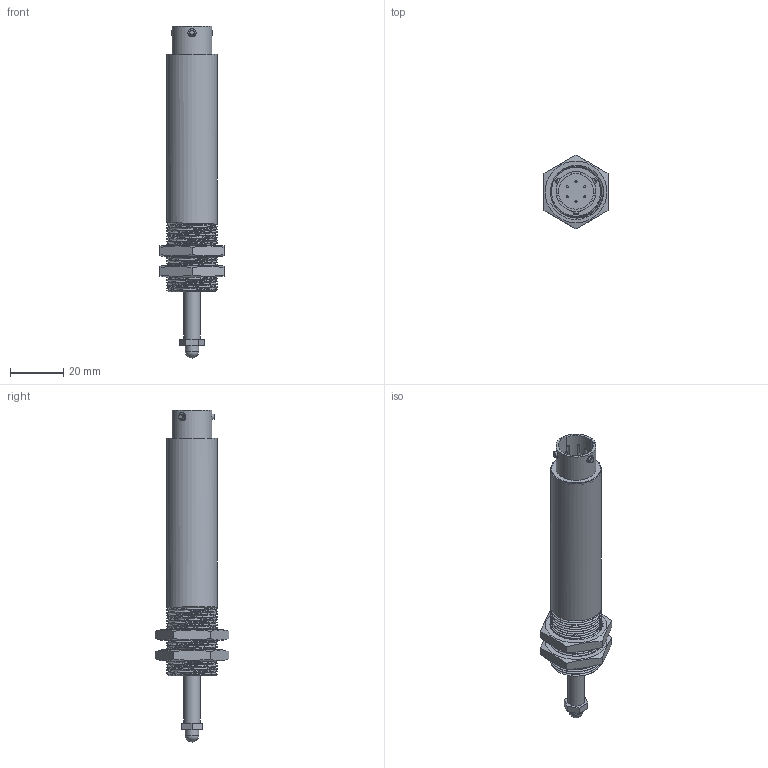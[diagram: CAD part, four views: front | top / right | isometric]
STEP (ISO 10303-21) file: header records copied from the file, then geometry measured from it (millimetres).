
FILE_DESCRIPTION(/* description */ (''),/* implementation_level */ '2;1');
FILE_NAME(/* name */ 'ILPS-18S-013-A-02-YY-Z.stp',/* time_stamp */ '2026-01-27T15:11:40-05:00',/* author */ ('wingm'),/* organization */ (''),/* preprocessor_version */ 'ST-DEVELOPER v20.1',/* originating_system */ 'Autodesk Inventor 2026',/* authorisation */ '');
FILE_SCHEMA (('AUTOMOTIVE_DESIGN { 1 0 10303 214 3 1 1 }'));
Length unit declared in the file: inch
Products named in the file (8): Assembly1; Body; End Cap; Shaft; Lining; PT02-10; Hex Nut; #9540
Assembly tree (8 placements, depth 2):
  Assembly1
    Body
    End Cap
    Shaft
    Lining
    PT02-10
    Hex Nut  x2
    #9540
Bounding box: 24 x 27.71 x 124.46 mm (x, y, z)
Volume: 8250 mm3; surface area: 17592.1 mm2
Topology: 15 solids, 15 shells, 168 faces, 364 edges, 242 vertices
Faces by surface type: plane 75, cylinder 69, cone 10, bspline 10, torus 3, sphere 1
Full cylindrical faces by diameter (mm): 0.762 x6, 1.905 x1, 2.032 x3, 2.845 x3, 3.048 x3, 5.08 x1, 6.35 x2, 6.858 x2, 13.208 x1, 14.986 x1, 17.069 x3, 18.415 x2, 19.05 x28
Entity records: 9522 total; most frequent: CARTESIAN_POINT 6001, ORIENTED_EDGE 632, DIRECTION 630, EDGE_CURVE 316, AXIS2_PLACEMENT_3D 249, VERTEX_POINT 211, EDGE_LOOP 171, FACE_OUTER_BOUND 149
